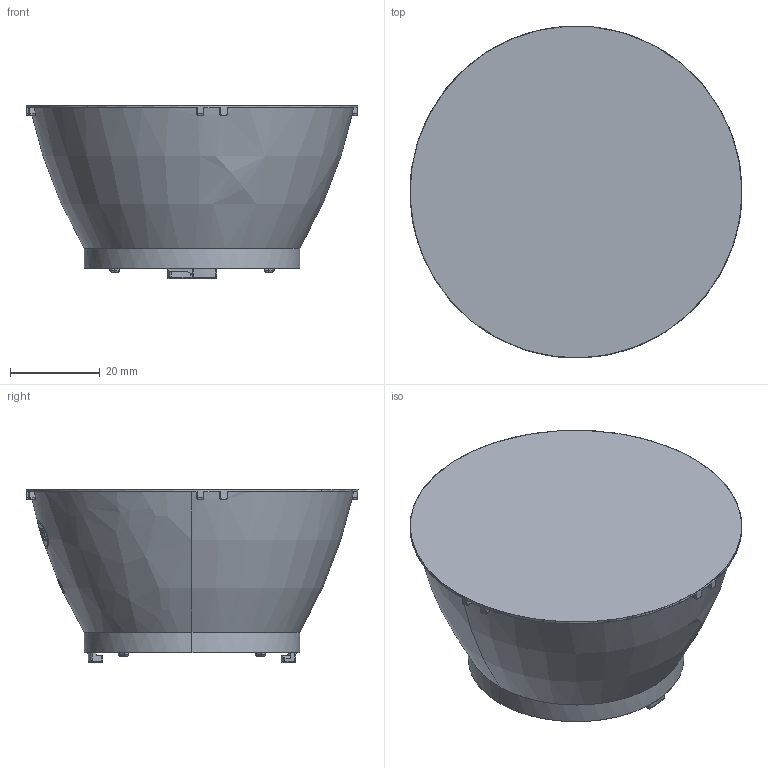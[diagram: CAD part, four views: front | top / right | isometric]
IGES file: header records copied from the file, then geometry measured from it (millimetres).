
Global section: file name: C:\coretechnologie2013\3D-in/01WYF00Y0L.igs; native system: CT CoreTechnologie 3D Evolution; preprocessor: 2006; author: assmuth; date: 1150727.120117; units: millimetre
Bounding box: 73.99 x 74 x 38.6 mm (x, y, z)
Surface area: 13835.2 mm2 (no closed solid volume)
Topology: 0 solids, 0 shells, 222 faces, 1118 edges, 1114 vertices
Faces by surface type: bspline 222
